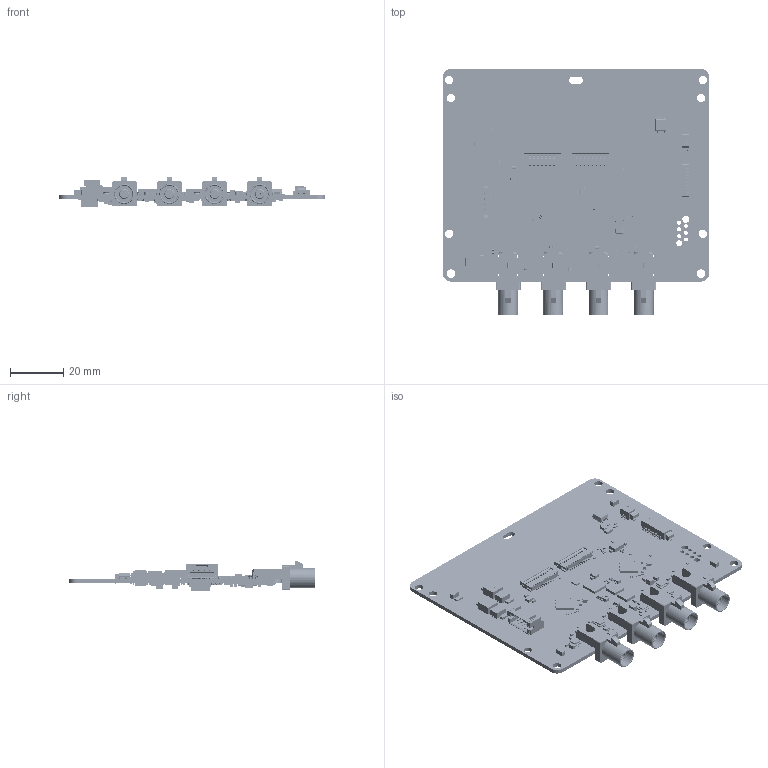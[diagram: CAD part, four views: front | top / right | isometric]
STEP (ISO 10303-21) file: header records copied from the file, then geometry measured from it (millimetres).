
FILE_DESCRIPTION(/* description */ (''),/* implementation_level */ '2;1');
FILE_NAME(/* name */ 'KSM_MF-HB0-0120_FPD-DSER.stp',/* time_stamp */ '2026-04-24T09:52:30+02:00',/* author */ ('khw'),/* organization */ ('TIS/ Germany'),/* preprocessor_version */ 'ST-DEVELOPER v20',/* originating_system */ 'Autodesk Inventor 2025',/* authorisation */ '6767,5 mm^3');
FILE_SCHEMA (('AUTOMOTIVE_DESIGN { 1 0 10303 214 3 1 1 }'));
Products named in the file (1): KSM_MF-HB0-0120_FPD-DSER
Bounding box: 100 x 92.63 x 10.91 mm (x, y, z)
Volume: 16561.8 mm3; surface area: 25618.9 mm2
Topology: 18 solids, 18 shells, 17560 faces, 42952 edges, 23770 vertices
Faces by surface type: plane 8266, cylinder 6351, sphere 1432, torus 1426, bspline 48, cone 37
Full cylindrical faces by diameter (mm): 0.5 x2, 0.7 x8, 0.856 x2, 1.5 x22, 2.2 x1, 2.6 x5, 3.1 x4, 3.2 x4, 3.7 x4, 6.3 x4, 7.45 x4
Entity records: 517040 total; most frequent: DIRECTION 89606, CARTESIAN_POINT 88907, ORIENTED_EDGE 83040, EDGE_CURVE 41520, AXIS2_PLACEMENT_3D 30717, LINE 28172, VECTOR 28172, VERTEX_POINT 23770
